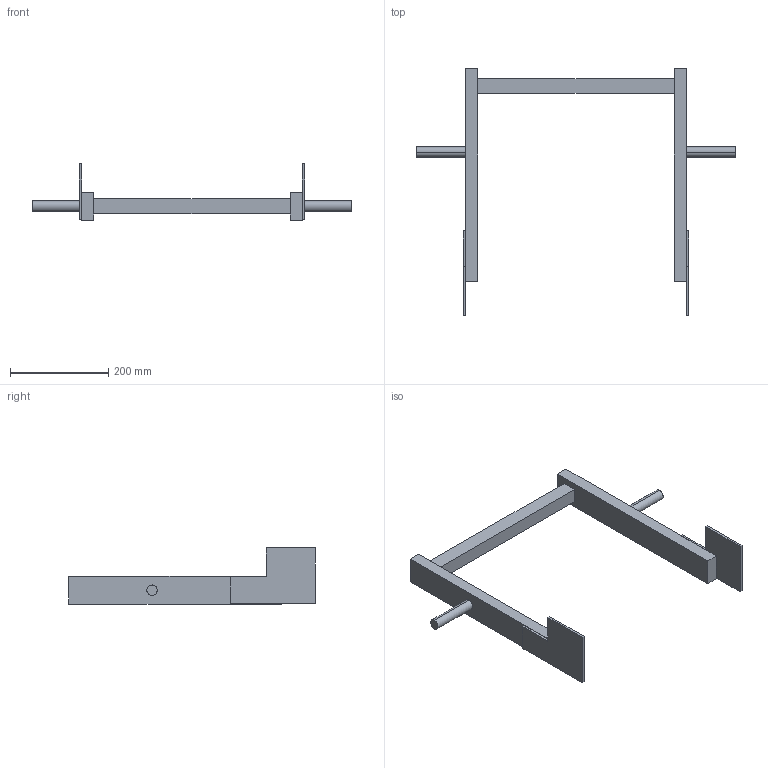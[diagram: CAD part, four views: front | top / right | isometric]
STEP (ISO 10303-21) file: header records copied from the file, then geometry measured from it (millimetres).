
FILE_DESCRIPTION((''),'2;1');
FILE_NAME('52330574','2024-12-18T08:07:52',('wep'),('HUBER SE'),'CREO PARAMETRIC BY PTC INC, 2022162','CREO PARAMETRIC BY PTC INC, 2022162','');
FILE_SCHEMA(('AUTOMOTIVE_DESIGN { 1 0 10303 214 1 1 1 1 }'));
Length unit declared in the file: millimetre
Products named in the file (1): 52330574
Bounding box: 650 x 503 x 115 mm (x, y, z)
Volume: 1820905.5 mm3; surface area: 251863.2 mm2
Topology: 1 solids, 1 shells, 38 faces, 92 edges, 60 vertices
Faces by surface type: plane 34, cylinder 4
Entity records: 1651 total; most frequent: CARTESIAN_POINT 192, ORIENTED_EDGE 184, DIRECTION 176, COLOUR_RGB 106, EDGE_CURVE 92, VECTOR 84, LINE 84, PROPERTY_DEFINITION 77
